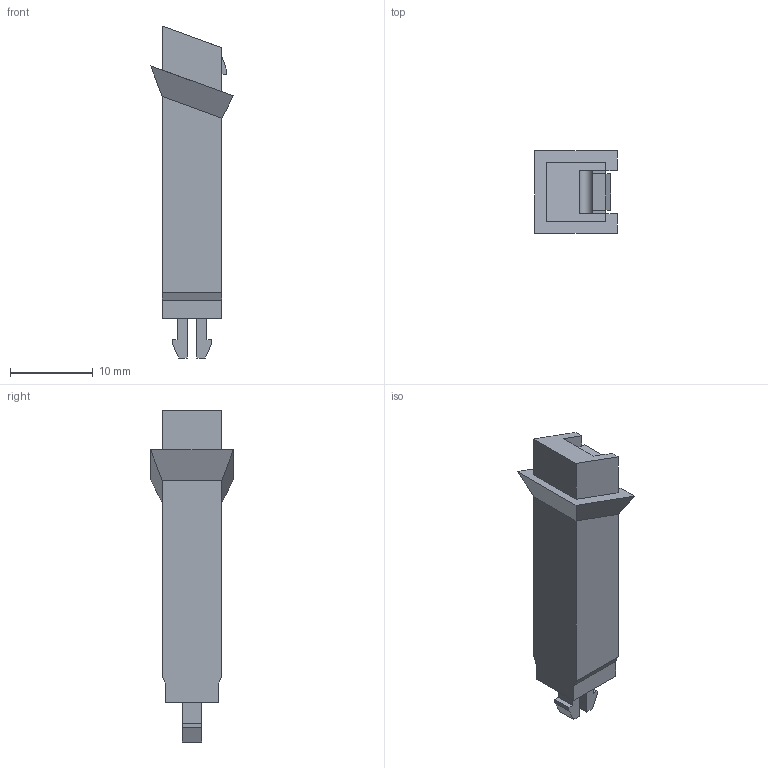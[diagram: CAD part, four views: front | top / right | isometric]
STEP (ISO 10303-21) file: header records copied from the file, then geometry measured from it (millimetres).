
FILE_DESCRIPTION(('Open CASCADE Model'),'2;1');
FILE_NAME('Open CASCADE Shape Model','2026-11-15T18:32:10',('Author'),( 'Open CASCADE'),'Open CASCADE STEP processor 7.9','Open CASCADE 7.9' ,'Unknown');
FILE_SCHEMA(('AUTOMOTIVE_DESIGN { 1 0 10303 214 1 1 1 1 }'));
Length unit declared in the file: millimetre
Products named in the file (1): Open CASCADE STEP translator 7.9 2
Bounding box: 10 x 10 x 40.12 mm (x, y, z)
Volume: 1607.2 mm3; surface area: 1685.5 mm2
Topology: 1 solids, 1 shells, 56 faces, 148 edges, 96 vertices
Faces by surface type: plane 49, bspline 5, cylinder 2
Entity records: 3606 total; most frequent: CARTESIAN_POINT 796, DIRECTION 452, LINE 332, VECTOR 332, ORIENTED_EDGE 296, PCURVE 296, DEFINITIONAL_REPRESENTATION 296, EDGE_CURVE 148
